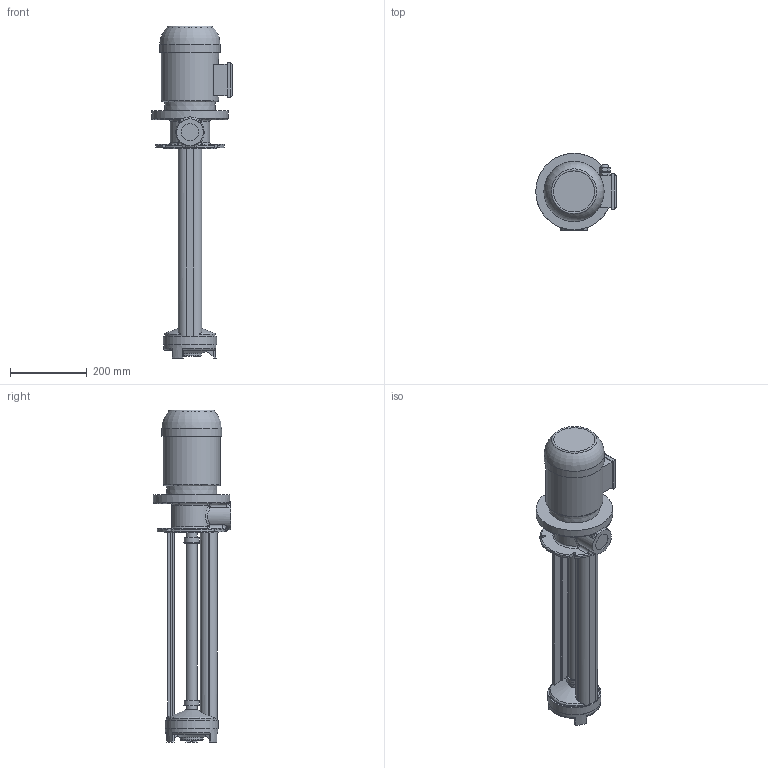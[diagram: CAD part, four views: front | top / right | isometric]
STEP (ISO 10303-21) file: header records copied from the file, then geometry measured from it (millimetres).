
FILE_DESCRIPTION(/* description */ ('Unknown'),/* implementation_level */ '2;1');
FILE_NAME(/* name */ 'gp550',/* time_stamp */ '2025-06-04T09:11:32+03:00',/* author */ ('Unknown'),/* organization */ ('Unknown'),/* preprocessor_version */ 'ST-DEVELOPER v16.7',/* originating_system */ 'DEX',/* authorisation */ $);
FILE_SCHEMA (('AUTOMOTIVE_DESIGN {1 0 10303 214 3 1 1}'));
Length unit declared in the file: millimetre
Products named in the file (1): gp550
Bounding box: 210.5 x 202 x 867.57 mm (x, y, z)
Volume: 8205926.2 mm3; surface area: 511171.2 mm2
Topology: 1 solids, 1 shells, 296 faces, 730 edges, 467 vertices
Faces by surface type: plane 112, bspline 86, cylinder 64, torus 18, cone 16
Full cylindrical faces by diameter (mm): 17 x1, 21.5 x1, 29 x3, 33 x2, 35 x2, 39 x2, 40.5 x2, 45 x1, 47 x1, 60 x1, 137 x1, 139 x1, 140 x1, 149.426 x1, 200 x1
Entity records: 11370 total; most frequent: CARTESIAN_POINT 5073, ORIENTED_EDGE 1360, DIRECTION 1075, EDGE_CURVE 680, VERTEX_POINT 462, AXIS2_PLACEMENT_3D 393, EDGE_LOOP 376, FACE_BOUND 376
